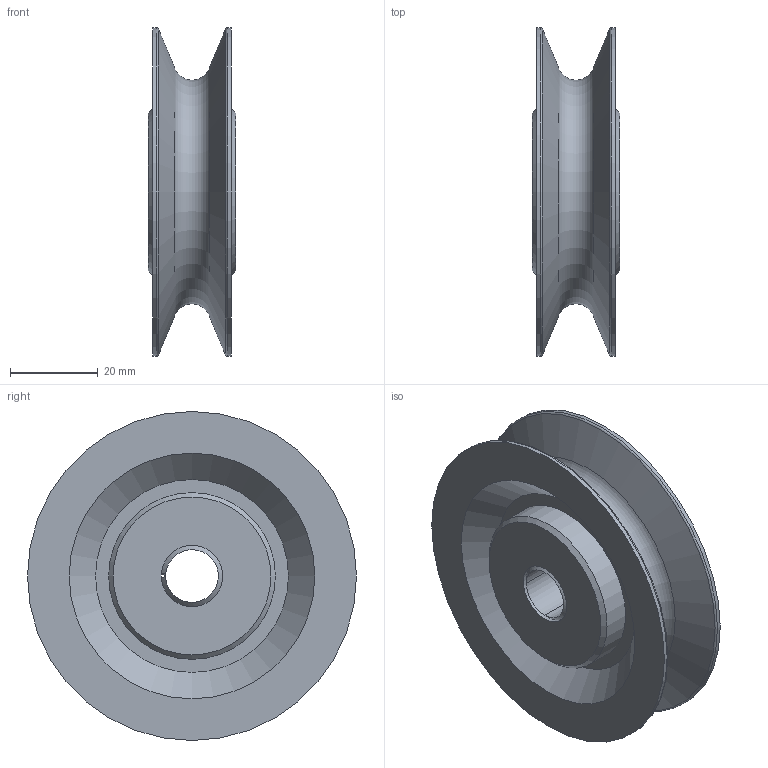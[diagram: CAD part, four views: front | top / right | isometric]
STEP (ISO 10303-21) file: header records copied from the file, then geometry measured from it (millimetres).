
FILE_DESCRIPTION(/* description */ ('Seilrolle ø75 Buchse komplett'),/* implementation_level */ '2;1');
FILE_NAME(/* name */ 'Z:\Workspace\03 Seilrollen\1.401 Seilrollen Gleitlager\1.401.02 Seilrolle ø 75 Buchse\1.401.02 Seilrolle ø75 Buchse komplett.stp',/* time_stamp */ '2021-10-01T14:52:27+02:00',/* author */ ('cad-user'),/* organization */ (''),/* preprocessor_version */ 'ST-DEVELOPER v18',/* originating_system */ 'Autodesk Inventor 2020',/* authorisation */ '');
FILE_SCHEMA (('AUTOMOTIVE_DESIGN { 1 0 10303 214 3 1 1 }'));
Length unit declared in the file: millimetre
Products named in the file (3): 1.401.02 Seilrolle ø75 Buchse komplett; 1.401.02 Seilrolle ø75 Buchse; Lagerbuchse 1220-DU
Assembly tree (2 placements, depth 2):
  1.401.02 Seilrolle ø75 Buchse komplett
    1.401.02 Seilrolle ø75 Buchse
    Lagerbuchse 1220-DU
Bounding box: 20 x 75 x 75 mm (x, y, z)
Volume: 43854.8 mm3; surface area: 19776.6 mm2
Topology: 2 solids, 2 shells, 29 faces, 77 edges, 54 vertices
Faces by surface type: cone 10, cylinder 8, plane 8, torus 3
Full cylindrical faces by diameter (mm): 14 x1, 38 x2, 75 x2
Entity records: 1068 total; most frequent: DIRECTION 196, CARTESIAN_POINT 173, ORIENTED_EDGE 154, AXIS2_PLACEMENT_3D 89, EDGE_CURVE 77, CIRCLE 55, VERTEX_POINT 54, EDGE_LOOP 35
